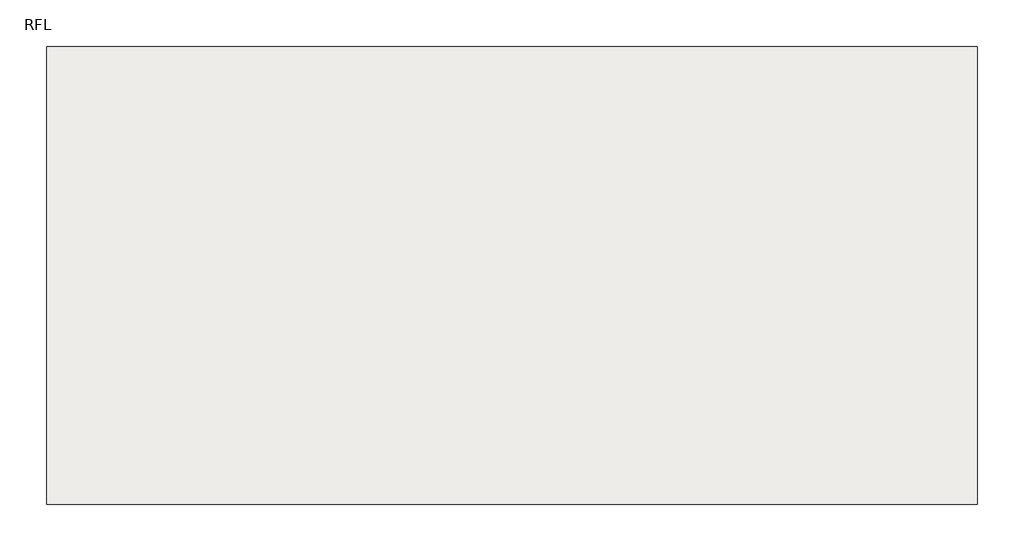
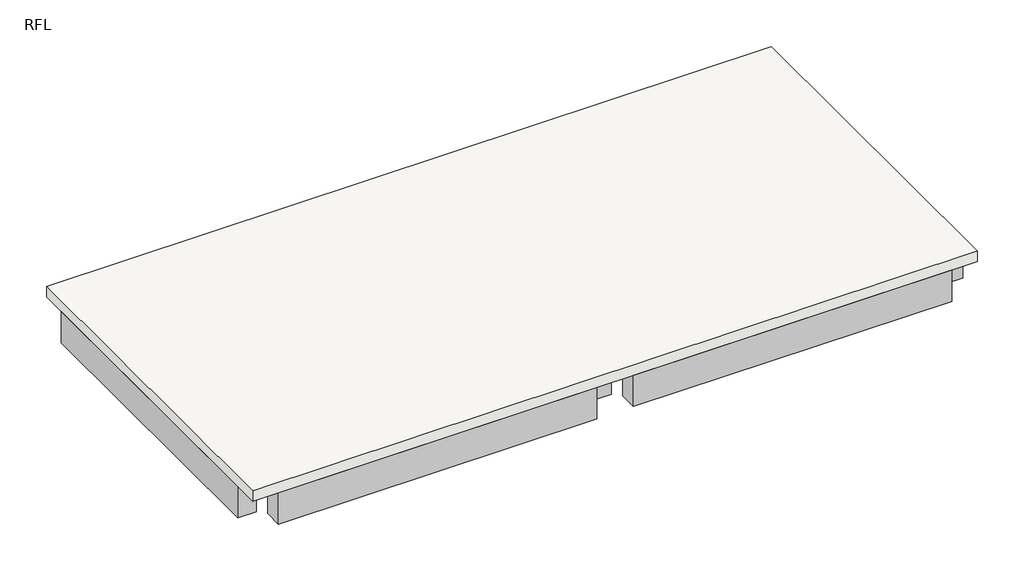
# One storey: 5 beams, 1 slab.
"""IFC4 building model written with IfcOpenShell, lengths in millimetres."""

from ifc_helpers import new_model, si_unit, frame, origin, place, context, project, spatial, polyline, outline, extrude, faceted_brep, element, save

model = new_model("IFC4")

# Units and contexts
model_context = context("Model", 3, world=origin())
ifc_project = project(units=[si_unit("LENGTHUNIT", "METRE", prefix="MILLI")], contexts=[model_context])

# Site, building, storey
site = spatial("IfcSite", under=ifc_project)
building = spatial("IfcBuilding", under=site)
storey = spatial("IfcBuildingStorey", under=building, Name="RFL", Elevation=3800.0)

# Beams
placement = place(None, origin())
element("IfcBeam", 1, ObjectType="コンクリート - 長方形梁 : 300 x 600mm", at=placement, inside=storey, context=model_context, shape_type="SweptSolid", body=[
    extrude(outline(polyline([(-4294.4199828, 2504.5568679), (-4294.4199828, -1645.4431321), (-4544.4199828, -1645.4431321), (-4544.4199828, 2504.5568679), (-4294.4199828, 2504.5568679)])), frame((0.0, 0.0, 3200.0), z_axis=(0.0, 0.0, 1.0), x_axis=(1.0, 0.0, 0.0)), (0.0, 0.0, 1.0), 450.0),
])
element("IfcBeam", 2, ObjectType="コンクリート - 長方形梁 : 300 x 600mm", at=placement, inside=storey, context=model_context, shape_type="SweptSolid", body=[
    extrude(outline(polyline([(230.5800172, -1645.4431321), (230.5800172, 2504.5568679), (530.5800172, 2504.5568679), (530.5800172, -1645.4431321), (230.5800172, -1645.4431321)])), frame((0.0, 0.0, 3200.0), z_axis=(0.0, 0.0, 1.0), x_axis=(1.0, 0.0, 0.0)), (0.0, 0.0, 1.0), 450.0),
])
element("IfcBeam", 3, ObjectType="コンクリート - 長方形梁 : 300 x 600mm", at=placement, inside=storey, context=model_context, shape_type="SweptSolid", body=[
    extrude(outline(polyline([(5055.5800172, -1645.4431321), (5055.5800172, 2504.5568679), (5305.5800172, 2504.5568679), (5305.5800172, -1645.4431321), (5055.5800172, -1645.4431321)])), frame((0.0, 0.0, 3200.0), z_axis=(0.0, 0.0, 1.0), x_axis=(1.0, 0.0, 0.0)), (0.0, 0.0, 1.0), 450.0),
])
element("IfcBeam", 4, ObjectType="コンクリート - 長方形梁 : 300 x 600mm", at=placement, inside=storey, context=model_context, shape_type="SweptSolid", body=[
    extrude(outline(polyline([(130.5800172, 2604.5568679), (-4194.4199828, 2604.5568679), (-4194.4199828, 2854.5568679), (130.5800172, 2854.5568679), (130.5800172, 2604.5568679)])), frame((0.0, 0.0, 3200.0), z_axis=(0.0, 0.0, 1.0), x_axis=(1.0, 0.0, 0.0)), (0.0, 0.0, 1.0), 450.0),
    extrude(outline(polyline([(4955.5800172, 2604.5568679), (630.5800172, 2604.5568679), (630.5800172, 2854.5568679), (4955.5800172, 2854.5568679), (4955.5800172, 2604.5568679)])), frame((0.0, 0.0, 3200.0), z_axis=(0.0, 0.0, 1.0), x_axis=(1.0, 0.0, 0.0)), (0.0, 0.0, 1.0), 450.0),
])
element("IfcBeam", 5, ObjectType="コンクリート - 長方形梁 : 300 x 600mm", at=placement, inside=storey, context=model_context, shape_type="SweptSolid", body=[
    extrude(outline(polyline([(-4194.4199828, -1745.4431321), (130.5800172, -1745.4431321), (130.5800172, -1995.4431321), (-4194.4199828, -1995.4431321), (-4194.4199828, -1745.4431321)])), frame((0.0, 0.0, 3200.0), z_axis=(0.0, 0.0, 1.0), x_axis=(1.0, 0.0, 0.0)), (0.0, 0.0, 1.0), 450.0),
    extrude(outline(polyline([(630.5800172, -1745.4431321), (4955.5800172, -1745.4431321), (4955.5800172, -1995.4431321), (630.5800172, -1995.4431321), (630.5800172, -1745.4431321)])), frame((0.0, 0.0, 3200.0), z_axis=(0.0, 0.0, 1.0), x_axis=(1.0, 0.0, 0.0)), (0.0, 0.0, 1.0), 450.0),
])

# Slab
element("IfcSlab", 6, ObjectType="一般 150 mm", at=placement, inside=storey, context=model_context, shape_type="Brep", body=[
    faceted_brep([(5305.5800172, 2854.5568679, 3650.0), (5305.5800172, 2504.5568679, 3650.0), (5305.5800172, -1645.4431321, 3650.0), (5305.5800172, -1995.4431321, 3650.0), (4955.5800172, -1995.4431321, 3650.0), (630.5800172, -1995.4431321, 3650.0), (130.5800172, -1995.4431321, 3650.0), (-4194.4199828, -1995.4431321, 3650.0), (-4544.4199828, -1995.4431321, 3650.0), (-4544.4199828, -1645.4431321, 3650.0), (-4544.4199828, 2504.5568679, 3650.0), (-4544.4199828, 2854.5568679, 3650.0), (-4194.4199828, 2854.5568679, 3650.0), (130.5800172, 2854.5568679, 3650.0), (630.5800172, 2854.5568679, 3650.0), (4955.5800172, 2854.5568679, 3650.0), (5305.5800172, 2854.5568679, 3800.0), (-4544.4199828, 2854.5568679, 3800.0), (-4544.4199828, -1995.4431321, 3800.0), (5305.5800172, -1995.4431321, 3800.0)], [[[0, 1, 2, 3, 4, 5, 6, 7, 8, 9, 10, 11, 12, 13, 14, 15]], [[16, 17, 18, 19]], [[3, 2, 1, 0, 16, 19]], [[8, 7, 6, 5, 4, 3, 19, 18]], [[11, 10, 9, 8, 18, 17]], [[0, 15, 14, 13, 12, 11, 17, 16]]]),
])

save(model, "model.ifc")
